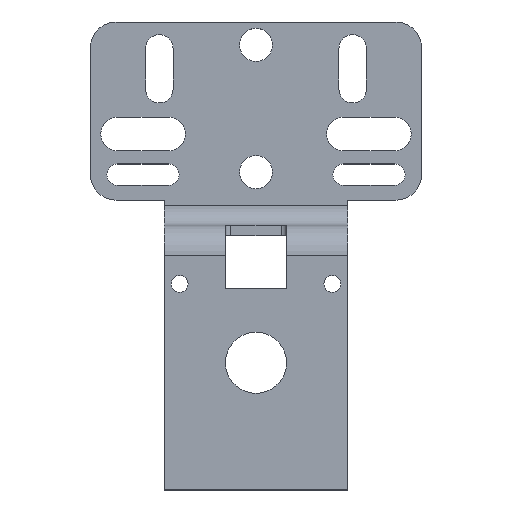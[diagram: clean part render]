
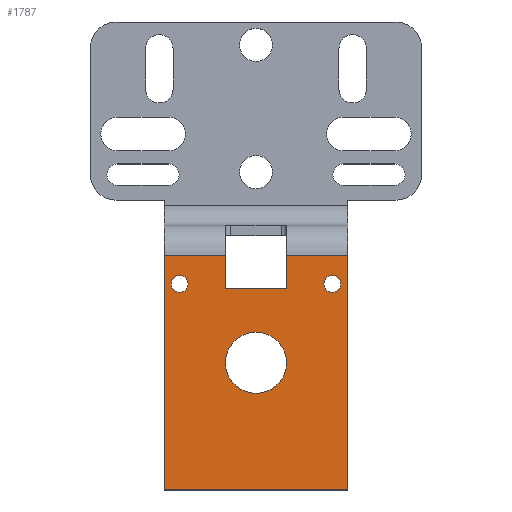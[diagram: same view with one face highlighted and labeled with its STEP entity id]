
A CAD part, top view. The second image highlights one B-rep face of the part: STEP entity #1787.
In plain terms, the highlighted planar face has unit normal (0, 0, 1).
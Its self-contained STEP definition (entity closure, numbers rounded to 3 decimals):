
#38=DIRECTION('',(0.,-1.,0.));
#39=VECTOR('',#38,46.);
#40=CARTESIAN_POINT('',(-18.,21.,-20.));
#41=LINE('',#40,#39);
#266=DIRECTION('',(0.,-1.,0.));
#267=VECTOR('',#266,46.);
#268=CARTESIAN_POINT('',(18.,21.,-20.));
#269=LINE('',#268,#267);
#662=CARTESIAN_POINT('',(0.,0.,-20.));
#663=DIRECTION('',(0.,0.,1.));
#664=DIRECTION('',(1.,0.,0.));
#665=AXIS2_PLACEMENT_3D('',#662,#663,#664);
#667=CARTESIAN_POINT('',(0.,0.,-20.));
#668=DIRECTION('',(0.,0.,1.));
#669=DIRECTION('',(-1.,0.,0.));
#670=AXIS2_PLACEMENT_3D('',#667,#668,#669);
#672=CARTESIAN_POINT('',(15.,15.5,-20.));
#673=DIRECTION('',(0.,0.,1.));
#674=DIRECTION('',(1.,0.,0.));
#675=AXIS2_PLACEMENT_3D('',#672,#673,#674);
#677=CARTESIAN_POINT('',(15.,15.5,-20.));
#678=DIRECTION('',(0.,0.,1.));
#679=DIRECTION('',(-1.,0.,0.));
#680=AXIS2_PLACEMENT_3D('',#677,#678,#679);
#682=CARTESIAN_POINT('',(-15.,15.5,-20.));
#683=DIRECTION('',(0.,0.,1.));
#684=DIRECTION('',(1.,0.,0.));
#685=AXIS2_PLACEMENT_3D('',#682,#683,#684);
#687=CARTESIAN_POINT('',(-15.,15.5,-20.));
#688=DIRECTION('',(0.,0.,1.));
#689=DIRECTION('',(-1.,0.,0.));
#690=AXIS2_PLACEMENT_3D('',#687,#688,#689);
#692=DIRECTION('',(0.,-1.,0.));
#693=VECTOR('',#692,6.5);
#694=CARTESIAN_POINT('',(-6.,21.,-20.));
#695=LINE('',#694,#693);
#696=DIRECTION('',(1.,0.,0.));
#697=VECTOR('',#696,12.);
#698=CARTESIAN_POINT('',(-6.,14.5,-20.));
#699=LINE('',#698,#697);
#700=DIRECTION('',(0.,-1.,0.));
#701=VECTOR('',#700,6.5);
#702=CARTESIAN_POINT('',(6.,21.,-20.));
#703=LINE('',#702,#701);
#704=DIRECTION('',(1.,0.,0.));
#705=VECTOR('',#704,12.);
#706=CARTESIAN_POINT('',(6.,21.,-20.));
#707=LINE('',#706,#705);
#708=DIRECTION('',(1.,0.,0.));
#709=VECTOR('',#708,12.);
#710=CARTESIAN_POINT('',(-18.,21.,-20.));
#711=LINE('',#710,#709);
#732=DIRECTION('',(1.,0.,0.));
#733=VECTOR('',#732,36.);
#734=CARTESIAN_POINT('',(-18.,-25.,-20.));
#735=LINE('',#734,#733);
#852=CARTESIAN_POINT('',(-18.,-25.,-20.));
#854=VERTEX_POINT('',#852);
#870=CARTESIAN_POINT('',(-18.,21.,-20.));
#871=VERTEX_POINT('',#870);
#872=CARTESIAN_POINT('',(18.,-25.,-20.));
#874=VERTEX_POINT('',#872);
#890=CARTESIAN_POINT('',(18.,21.,-20.));
#891=VERTEX_POINT('',#890);
#976=CARTESIAN_POINT('',(6.,0.,-20.));
#977=CARTESIAN_POINT('',(-6.,0.,-20.));
#978=VERTEX_POINT('',#976);
#979=VERTEX_POINT('',#977);
#980=CARTESIAN_POINT('',(16.65,15.5,-20.));
#981=CARTESIAN_POINT('',(13.35,15.5,-20.));
#982=VERTEX_POINT('',#980);
#983=VERTEX_POINT('',#981);
#984=CARTESIAN_POINT('',(-13.35,15.5,-20.));
#985=CARTESIAN_POINT('',(-16.65,15.5,-20.));
#986=VERTEX_POINT('',#984);
#987=VERTEX_POINT('',#985);
#1061=CARTESIAN_POINT('',(-6.,21.,-20.));
#1063=VERTEX_POINT('',#1061);
#1065=CARTESIAN_POINT('',(6.,21.,-20.));
#1067=VERTEX_POINT('',#1065);
#1068=CARTESIAN_POINT('',(-6.,14.5,-20.));
#1069=VERTEX_POINT('',#1068);
#1070=CARTESIAN_POINT('',(6.,14.5,-20.));
#1071=VERTEX_POINT('',#1070);
#1754=CARTESIAN_POINT('',(-18.,21.,-20.));
#1755=DIRECTION('',(0.,0.,1.));
#1756=DIRECTION('',(0.,-1.,0.));
#1757=AXIS2_PLACEMENT_3D('',#1754,#1755,#1756);
#1758=PLANE('',#1757);
#1759=ORIENTED_EDGE('',*,*,#1623,.T.);
#1761=ORIENTED_EDGE('',*,*,#1760,.T.);
#1762=ORIENTED_EDGE('',*,*,#1568,.F.);
#1763=ORIENTED_EDGE('',*,*,#1603,.T.);
#1764=ORIENTED_EDGE('',*,*,#1275,.T.);
#1766=ORIENTED_EDGE('',*,*,#1765,.F.);
#1767=ORIENTED_EDGE('',*,*,#1123,.F.);
#1768=ORIENTED_EDGE('',*,*,#1588,.T.);
#1769=EDGE_LOOP('',(#1759,#1761,#1762,#1763,#1764,#1766,#1767,#1768));
#1770=FACE_OUTER_BOUND('',#1769,.F.);
#1772=ORIENTED_EDGE('',*,*,#1771,.T.);
#1774=ORIENTED_EDGE('',*,*,#1773,.T.);
#1775=EDGE_LOOP('',(#1772,#1774));
#1776=FACE_BOUND('',#1775,.F.);
#1778=ORIENTED_EDGE('',*,*,#1777,.T.);
#1780=ORIENTED_EDGE('',*,*,#1779,.T.);
#1781=EDGE_LOOP('',(#1778,#1780));
#1782=FACE_BOUND('',#1781,.F.);
#1783=ORIENTED_EDGE('',*,*,#1734,.T.);
#1784=ORIENTED_EDGE('',*,*,#1748,.T.);
#1785=EDGE_LOOP('',(#1783,#1784));
#1786=FACE_BOUND('',#1785,.F.);
#1787=ADVANCED_FACE('',(#1770,#1776,#1782,#1786),#1758,.T.);
#666=CIRCLE('',#665,6.);
#671=CIRCLE('',#670,6.);
#676=CIRCLE('',#675,1.65);
#681=CIRCLE('',#680,1.65);
#686=CIRCLE('',#685,1.65);
#691=CIRCLE('',#690,1.65);
#1123=EDGE_CURVE('',#871,#854,#41,.T.);
#1275=EDGE_CURVE('',#891,#874,#269,.T.);
#1568=EDGE_CURVE('',#1067,#1071,#703,.T.);
#1588=EDGE_CURVE('',#871,#1063,#711,.T.);
#1603=EDGE_CURVE('',#1067,#891,#707,.T.);
#1623=EDGE_CURVE('',#1063,#1069,#695,.T.);
#1734=EDGE_CURVE('',#978,#979,#666,.T.);
#1748=EDGE_CURVE('',#979,#978,#671,.T.);
#1760=EDGE_CURVE('',#1069,#1071,#699,.T.);
#1765=EDGE_CURVE('',#854,#874,#735,.T.);
#1771=EDGE_CURVE('',#982,#983,#676,.T.);
#1773=EDGE_CURVE('',#983,#982,#681,.T.);
#1777=EDGE_CURVE('',#986,#987,#686,.T.);
#1779=EDGE_CURVE('',#987,#986,#691,.T.);
